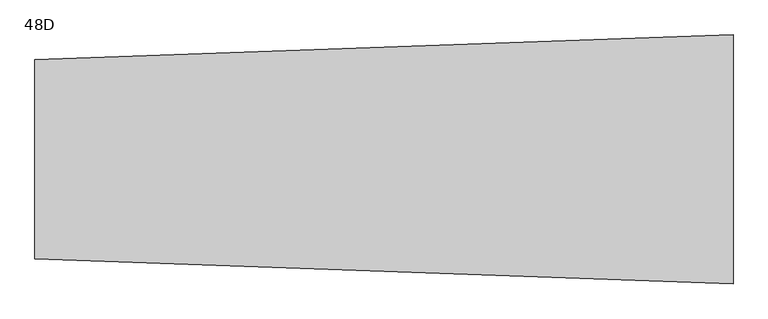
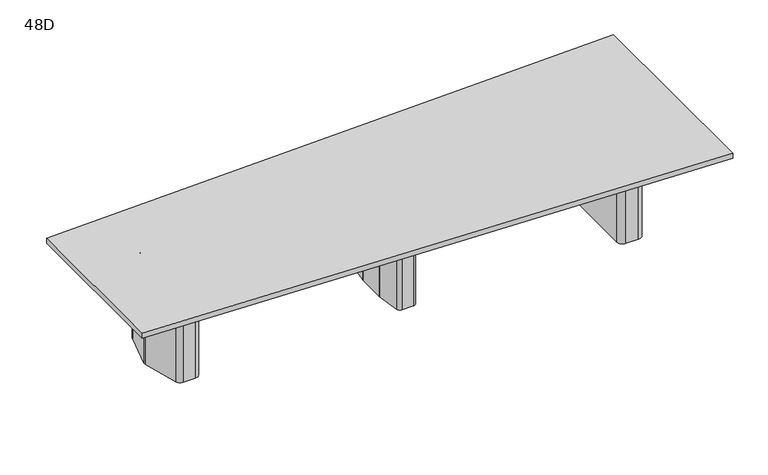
"""IFC4 building model written with IfcOpenShell, lengths in millimetres: furniture geometry, Coalesse_AM_Table_Conference_ETable2_Trapezoid_14ft_ThreeBase : 48D."""

from ifc_helpers import new_model, si_unit, point, frame, frame_2d, origin, origin_with_axes, place, context, project, spatial, polyline, circle_curve, trimmed, segment, composite_curve, outline, extrude, source, transform, mapped, element, save
from ifc_brep_helpers import plane_surface, cylinder_surface, revolved_surface, advanced_brep


def furniture_48d_ada207fc(model_context):
    return source(origin(), model_context, "Body", "SolidModel", [
        advanced_brep(
        [(35.71875, 206.375, 3.175), (10.31875, 231.775, 3.175), (-10.31875, 231.775, 3.175), (-35.71875, 206.375, 3.175), (-35.71875, -206.375, 3.175), (-10.31875, -231.775, 3.175), (10.31875, -231.775, 3.175), (35.71875, -206.375, 3.175), (-61.11875, 206.375, 0.0), (-10.31875, 257.175, 0.0), (10.31875, 257.175, 0.0), (61.11875, 206.375, 0.0), (61.11875, -206.375, 0.0), (10.31875, -257.175, 0.0), (-10.31875, -257.175, 0.0), (-61.11875, -206.375, 0.0), (-61.11875, -206.375, 3.175), (-61.11875, 206.375, 3.175), (-10.31875, -257.175, 3.175), (10.31875, -257.175, 3.175), (61.11875, -206.375, 3.175), (61.11875, 206.375, 3.175), (10.31875, 257.175, 3.175), (-10.31875, 257.175, 3.175), (-92.6215974, 106.2976848, 698.5), (-92.86875, 102.7629613, 698.5), (-92.86875, -102.7629613, 698.5), (-92.6215974, -106.2976848, 698.5), (-67.7988375, -282.9347235, 698.5), (-42.6459902, -304.8, 698.5), (42.6459902, -304.8, 698.5), (67.7988375, -282.9347235, 698.5), (92.6215974, -106.2976848, 698.5), (92.86875, -102.7629613, 698.5), (92.86875, 102.7629613, 698.5), (92.6215974, 106.2976848, 698.5), (67.7988375, 282.9347235, 698.5), (42.6459902, 304.8, 698.5), (-42.6459902, 304.8, 698.5), (-67.7988375, 282.9347235, 698.5), (10.31875, 231.775, 698.5), (35.71875, 206.375, 698.5), (35.71875, -206.375, 698.5), (10.31875, -231.775, 698.5), (-10.31875, -231.775, 698.5), (-35.71875, -206.375, 698.5), (-35.71875, 206.375, 698.5), (-10.31875, 231.775, 698.5), (-92.6215974, 106.2976848, 3.175), (-67.7988375, 282.9347235, 3.175), (-42.6459902, 304.8, 3.175), (42.6459902, 304.8, 3.175), (67.7988375, 282.9347235, 3.175), (92.6215974, 106.2976848, 3.175), (92.86875, 102.7629613, 3.175), (92.86875, -102.7629613, 3.175), (92.6215974, -106.2976848, 3.175), (67.7988375, -282.9347235, 3.175), (42.6459902, -304.8, 3.175), (-42.6459902, -304.8, 3.175), (-67.7988375, -282.9347235, 3.175), (-92.6215974, -106.2976848, 3.175), (-92.86875, -102.7629613, 3.175), (-92.86875, 102.7629613, 3.175)],
        [
            (0, 1, circle_curve(frame((10.31875, 206.375, 3.175), z_axis=(0.0, 0.0, 1.0), x_axis=(1.0, 0.0, 0.0)), 25.4)),
            (1, 2),
            (2, 3, circle_curve(frame((-10.31875, 206.375, 3.175), z_axis=(0.0, 0.0, 1.0), x_axis=(1.0, 0.0, 0.0)), 25.4)),
            (3, 4),
            (4, 5, circle_curve(frame((-10.31875, -206.375, 3.175), z_axis=(0.0, 0.0, 1.0), x_axis=(1.0, 0.0, 0.0)), 25.4)),
            (5, 6),
            (6, 7, circle_curve(frame((10.31875, -206.375, 3.175), z_axis=(0.0, 0.0, 1.0), x_axis=(1.0, 0.0, 0.0)), 25.4)),
            (7, 0),
            (8, 9, circle_curve(frame((-10.31875, 206.375, 0.0), z_axis=(0.0, 0.0, -1.0), x_axis=(1.0, 0.0, 0.0)), 50.8)),
            (9, 10),
            (10, 11, circle_curve(frame((10.31875, 206.375, 0.0), z_axis=(0.0, 0.0, -1.0), x_axis=(1.0, 0.0, 0.0)), 50.8)),
            (11, 12),
            (12, 13, circle_curve(frame((10.31875, -206.375, 0.0), z_axis=(0.0, 0.0, -1.0), x_axis=(1.0, 0.0, 0.0)), 50.8)),
            (13, 14),
            (14, 15, circle_curve(frame((-10.31875, -206.375, 0.0), z_axis=(0.0, 0.0, -1.0), x_axis=(1.0, 0.0, 0.0)), 50.8)),
            (15, 8),
            (15, 16),
            (16, 17),
            (17, 8),
            (14, 18),
            (18, 16, circle_curve(frame((-10.31875, -206.375, 3.175), z_axis=(0.0, 0.0, -1.0), x_axis=(1.0, 0.0, 0.0)), 50.8)),
            (13, 19),
            (19, 18),
            (12, 20),
            (20, 19, circle_curve(frame((10.31875, -206.375, 3.175), z_axis=(0.0, 0.0, -1.0), x_axis=(1.0, 0.0, 0.0)), 50.8)),
            (11, 21),
            (21, 20),
            (10, 22),
            (22, 21, circle_curve(frame((10.31875, 206.375, 3.175), z_axis=(0.0, 0.0, -1.0), x_axis=(1.0, 0.0, 0.0)), 50.8)),
            (9, 23),
            (23, 22),
            (17, 23, circle_curve(frame((-10.31875, 206.375, 3.175), z_axis=(0.0, 0.0, -1.0), x_axis=(1.0, 0.0, 0.0)), 50.8)),
            (24, 25, circle_curve(frame((-67.46875, 102.7629613, 698.5), z_axis=(0.0, 0.0, 1.0), x_axis=(1.0, 0.0, 0.0)), 25.4)),
            (25, 26),
            (26, 27, circle_curve(frame((-67.46875, -102.7629613, 698.5), z_axis=(0.0, 0.0, 1.0), x_axis=(1.0, 0.0, 0.0)), 25.4)),
            (27, 28),
            (28, 29, circle_curve(frame((-42.6459902, -279.4, 698.5), z_axis=(0.0, 0.0, 1.0), x_axis=(1.0, 0.0, 0.0)), 25.4)),
            (29, 30),
            (30, 31, circle_curve(frame((42.6459902, -279.4, 698.5), z_axis=(0.0, 0.0, 1.0), x_axis=(1.0, 0.0, 0.0)), 25.4)),
            (31, 32),
            (32, 33, circle_curve(frame((67.46875, -102.7629613, 698.5), z_axis=(0.0, 0.0, 1.0), x_axis=(1.0, 0.0, 0.0)), 25.4)),
            (33, 34),
            (34, 35, circle_curve(frame((67.46875, 102.7629613, 698.5), z_axis=(0.0, 0.0, 1.0), x_axis=(1.0, 0.0, 0.0)), 25.4)),
            (35, 36),
            (36, 37, circle_curve(frame((42.6459902, 279.4, 698.5), z_axis=(0.0, 0.0, 1.0), x_axis=(1.0, 0.0, 0.0)), 25.4)),
            (37, 38),
            (38, 39, circle_curve(frame((-42.6459902, 279.4, 698.5), z_axis=(0.0, 0.0, 1.0), x_axis=(1.0, 0.0, 0.0)), 25.4)),
            (39, 24),
            (40, 41, circle_curve(frame((10.31875, 206.375, 698.5), z_axis=(0.0, 0.0, -1.0), x_axis=(1.0, 0.0, 0.0)), 25.4)),
            (41, 42),
            (42, 43, circle_curve(frame((10.31875, -206.375, 698.5), z_axis=(0.0, 0.0, -1.0), x_axis=(1.0, 0.0, 0.0)), 25.4)),
            (43, 44),
            (44, 45, circle_curve(frame((-10.31875, -206.375, 698.5), z_axis=(0.0, 0.0, -1.0), x_axis=(1.0, 0.0, 0.0)), 25.4)),
            (45, 46),
            (46, 47, circle_curve(frame((-10.31875, 206.375, 698.5), z_axis=(0.0, 0.0, -1.0), x_axis=(1.0, 0.0, 0.0)), 25.4)),
            (47, 40),
            (48, 49),
            (49, 50, circle_curve(frame((-42.6459902, 279.4, 3.175), z_axis=(0.0, 0.0, -1.0), x_axis=(1.0, 0.0, 0.0)), 25.4)),
            (50, 51),
            (51, 52, circle_curve(frame((42.6459902, 279.4, 3.175), z_axis=(0.0, 0.0, -1.0), x_axis=(1.0, 0.0, 0.0)), 25.4)),
            (52, 53),
            (53, 54, circle_curve(frame((67.46875, 102.7629613, 3.175), z_axis=(0.0, 0.0, -1.0), x_axis=(1.0, 0.0, 0.0)), 25.4)),
            (54, 55),
            (55, 56, circle_curve(frame((67.46875, -102.7629613, 3.175), z_axis=(0.0, 0.0, -1.0), x_axis=(1.0, 0.0, 0.0)), 25.4)),
            (56, 57),
            (57, 58, circle_curve(frame((42.6459902, -279.4, 3.175), z_axis=(0.0, 0.0, -1.0), x_axis=(1.0, 0.0, 0.0)), 25.4)),
            (58, 59),
            (59, 60, circle_curve(frame((-42.6459902, -279.4, 3.175), z_axis=(0.0, 0.0, -1.0), x_axis=(1.0, 0.0, 0.0)), 25.4)),
            (60, 61),
            (61, 62, circle_curve(frame((-67.46875, -102.7629613, 3.175), z_axis=(0.0, 0.0, -1.0), x_axis=(1.0, 0.0, 0.0)), 25.4)),
            (62, 63),
            (63, 48, circle_curve(frame((-67.46875, 102.7629613, 3.175), z_axis=(0.0, 0.0, -1.0), x_axis=(1.0, 0.0, 0.0)), 25.4)),
            (24, 48),
            (63, 25),
            (62, 26),
            (61, 27),
            (60, 28),
            (59, 29),
            (58, 30),
            (57, 31),
            (56, 32),
            (55, 33),
            (54, 34),
            (53, 35),
            (52, 36),
            (51, 37),
            (50, 38),
            (49, 39),
            (40, 1),
            (0, 41),
            (7, 42),
            (6, 43),
            (5, 44),
            (4, 45),
            (3, 46),
            (2, 47),
        ],
        [
            plane_surface(frame((-61.11875, -206.375, 3.175), z_axis=(0.0, 0.0, 1.0), x_axis=(0.0, -1.0, 0.0))),
            plane_surface(frame((-61.11875, -206.375, 0.0), z_axis=(0.0, 0.0, -1.0), x_axis=(0.0, 1.0, 0.0))),
            plane_surface(frame((-61.11875, 206.375, 3.175), z_axis=(-1.0, 0.0, 0.0), x_axis=(0.0, 0.0, -1.0))),
            cylinder_surface(frame((-10.31875, -206.375, 0.0), z_axis=(0.0, 0.0, 1.0), x_axis=(1.0, 0.0, 0.0)), 50.8),
            plane_surface(frame((-10.31875, -257.175, 3.175), z_axis=(0.0, -1.0, 0.0), x_axis=(0.0, 0.0, -1.0))),
            cylinder_surface(frame((10.31875, -206.375, 0.0), z_axis=(0.0, 0.0, 1.0), x_axis=(1.0, 0.0, 0.0)), 50.8),
            plane_surface(frame((61.11875, -206.375, 3.175), z_axis=(1.0, 0.0, 0.0), x_axis=(0.0, 0.0, -1.0))),
            cylinder_surface(frame((10.31875, 206.375, 0.0), z_axis=(0.0, 0.0, 1.0), x_axis=(1.0, 0.0, 0.0)), 50.8),
            plane_surface(frame((10.31875, 257.175, 3.175), z_axis=(0.0, 1.0, 0.0), x_axis=(0.0, 0.0, -1.0))),
            cylinder_surface(frame((-10.31875, 206.375, 0.0), z_axis=(0.0, 0.0, 1.0), x_axis=(1.0, 0.0, 0.0)), 50.8),
            plane_surface(frame((-42.06875, 102.7629613, 698.5), z_axis=(0.0, 0.0, 1.0), x_axis=(0.0, 1.0, 0.0))),
            plane_surface(frame((-42.06875, 102.7629613, 3.175), z_axis=(0.0, 0.0, -1.0), x_axis=(0.0, -1.0, 0.0))),
            cylinder_surface(frame((-67.46875, 102.7629613, 3.175), z_axis=(0.0, 0.0, 1.0), x_axis=(1.0, 0.0, 0.0)), 25.4),
            plane_surface(frame((-92.86875, 102.7629613, 698.5), z_axis=(-1.0, 0.0, 0.0), x_axis=(0.0, 0.0, -1.0))),
            cylinder_surface(frame((-67.46875, -102.7629613, 3.175), z_axis=(0.0, 0.0, 1.0), x_axis=(1.0, 0.0, 0.0)), 25.4),
            plane_surface(frame((-92.6215974, -106.2976848, 698.5), z_axis=(-0.9902695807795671, -0.13916234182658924, 0.0), x_axis=(0.0, 0.0, -1.0))),
            cylinder_surface(frame((-42.6459902, -279.4, 3.175), z_axis=(0.0, 0.0, 1.0), x_axis=(1.0, 0.0, 0.0)), 25.4),
            plane_surface(frame((-42.6459902, -304.8, 698.5), z_axis=(0.0, -1.0, 0.0), x_axis=(0.0, 0.0, -1.0))),
            cylinder_surface(frame((42.6459902, -279.4, 3.175), z_axis=(0.0, 0.0, 1.0), x_axis=(1.0, 0.0, 0.0)), 25.4),
            plane_surface(frame((67.7988375, -282.9347235, 698.5), z_axis=(0.9902695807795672, -0.13916234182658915, 0.0), x_axis=(0.0, 0.0, -1.0))),
            cylinder_surface(frame((67.46875, -102.7629613, 3.175), z_axis=(0.0, 0.0, 1.0), x_axis=(1.0, 0.0, 0.0)), 25.4),
            plane_surface(frame((92.86875, -102.7629613, 698.5), z_axis=(1.0, 0.0, 0.0), x_axis=(0.0, 0.0, -1.0))),
            cylinder_surface(frame((67.46875, 102.7629613, 3.175), z_axis=(0.0, 0.0, 1.0), x_axis=(1.0, 0.0, 0.0)), 25.4),
            plane_surface(frame((92.6215974, 106.2976848, 698.5), z_axis=(0.9902695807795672, 0.1391623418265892, 0.0), x_axis=(0.0, 0.0, -1.0))),
            cylinder_surface(frame((42.6459902, 279.4, 3.175), z_axis=(0.0, 0.0, 1.0), x_axis=(1.0, 0.0, 0.0)), 25.4),
            plane_surface(frame((42.6459902, 304.8, 698.5), z_axis=(0.0, 1.0, 0.0), x_axis=(0.0, 0.0, -1.0))),
            cylinder_surface(frame((-42.6459902, 279.4, 3.175), z_axis=(0.0, 0.0, 1.0), x_axis=(1.0, 0.0, 0.0)), 25.4),
            plane_surface(frame((-67.7988375, 282.9347235, 698.5), z_axis=(-0.9902695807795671, 0.13916234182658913, 0.0), x_axis=(0.0, 0.0, -1.0))),
            revolved_surface(polyline([(35.71875, 206.375, 3.175), (35.71875, 206.375, 698.5)]), (10.31875, 206.375, 0.0), (0.0, 0.0, -1.0)),
            plane_surface(frame((35.71875, 206.375, 698.5), z_axis=(-1.0, 0.0, 0.0), x_axis=(0.0, 0.0, -1.0))),
            revolved_surface(polyline([(35.71875, -206.375, 3.175), (35.71875, -206.375, 698.5)]), (10.31875, -206.375, 0.0), (0.0, 0.0, -1.0)),
            plane_surface(frame((10.31875, -231.775, 698.5), z_axis=(0.0, 1.0, 0.0), x_axis=(0.0, 0.0, -1.0))),
            revolved_surface(polyline([(15.081249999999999, -206.375, 3.175), (15.081249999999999, -206.375, 698.5)]), (-10.31875, -206.375, 0.0), (0.0, 0.0, -1.0)),
            plane_surface(frame((-35.71875, -206.375, 698.5), z_axis=(1.0, 0.0, 0.0), x_axis=(0.0, 0.0, -1.0))),
            revolved_surface(polyline([(15.081249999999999, 206.375, 3.175), (15.081249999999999, 206.375, 698.5)]), (-10.31875, 206.375, 0.0), (0.0, 0.0, -1.0)),
            plane_surface(frame((-10.31875, 231.775, 698.5), z_axis=(0.0, -1.0, 0.0), x_axis=(0.0, 0.0, -1.0))),
        ],
        [
            (0, [[1, 2, 3, 4, 5, 6, 7, 8]]),
            (1, [[9, 10, 11, 12, 13, 14, 15, 16]]),
            (2, [[-16, 17, 18, 19]]),
            (3, [[-15, 20, 21, -17]]),
            (4, [[-14, 22, 23, -20]]),
            (5, [[-13, 24, 25, -22]]),
            (6, [[-12, 26, 27, -24]]),
            (7, [[-11, 28, 29, -26]]),
            (8, [[-10, 30, 31, -28]]),
            (9, [[-9, -19, 32, -30]]),
            (10, [[33, 34, 35, 36, 37, 38, 39, 40, 41, 42, 43, 44, 45, 46, 47, 48], [49, 50, 51, 52, 53, 54, 55, 56]]),
            (11, [[57, 58, 59, 60, 61, 62, 63, 64, 65, 66, 67, 68, 69, 70, 71, 72], [-18, -21, -23, -25, -27, -29, -31, -32]]),
            (12, [[-33, 73, -72, 74]]),
            (13, [[-34, -74, -71, 75]]),
            (14, [[-35, -75, -70, 76]]),
            (15, [[-36, -76, -69, 77]]),
            (16, [[-37, -77, -68, 78]]),
            (17, [[-38, -78, -67, 79]]),
            (18, [[-39, -79, -66, 80]]),
            (19, [[-40, -80, -65, 81]]),
            (20, [[-41, -81, -64, 82]]),
            (21, [[-42, -82, -63, 83]]),
            (22, [[-43, -83, -62, 84]]),
            (23, [[-44, -84, -61, 85]]),
            (24, [[-45, -85, -60, 86]]),
            (25, [[-46, -86, -59, 87]]),
            (26, [[-47, -87, -58, 88]]),
            (27, [[-48, -88, -57, -73]]),
            (28, [[-49, 89, -1, 90]]),
            (29, [[-50, -90, -8, 91]]),
            (30, [[-51, -91, -7, 92]]),
            (31, [[-52, -92, -6, 93]]),
            (32, [[-53, -93, -5, 94]]),
            (33, [[-54, -94, -4, 95]]),
            (34, [[-55, -95, -3, 96]]),
            (35, [[-56, -96, -2, -89]]),
        ],
    ),
        extrude(outline(composite_curve([segment(polyline([(1751.0125, 101.7236478), (1751.0125, -97.2761514)]), True, "CONTINUOUS"), segment(trimmed(circle_curve(frame_2d((1712.9125, -97.2761514)), 38.1), [point((1751.0125, -97.2761514))], [point((1749.2491129, -108.7330515))], False, "CARTESIAN"), True, "CONTINUOUS"), segment(polyline([(1749.2491129, -108.7330515), (1690.8245591, -294.0319001)]), True, "CONTINUOUS"), segment(trimmed(circle_curve(frame_2d((1654.4879462, -282.575)), 38.1), [point((1690.8245591, -294.0319001))], [point((1654.4879462, -320.675))], False, "CARTESIAN"), True, "CONTINUOUS"), segment(polyline([(1654.4879462, -320.675), (1587.5, -320.675)]), True, "CONTINUOUS"), segment(trimmed(circle_curve(frame_2d((1587.5, -282.575)), 38.1), [point((1587.5, -320.675))], [point((1549.4, -282.575))], False, "CARTESIAN"), True, "CONTINUOUS"), segment(polyline([(1549.4, -282.575), (1549.4, 282.575)]), True, "CONTINUOUS"), segment(trimmed(circle_curve(frame_2d((1587.5, 282.575)), 38.1), [point((1549.4, 282.575))], [point((1587.5, 320.675))], False, "CARTESIAN"), True, "CONTINUOUS"), segment(polyline([(1587.5, 320.675), (1658.2373998, 320.675)]), True, "CONTINUOUS"), segment(trimmed(circle_curve(frame_2d((1658.2373998, 282.575)), 38.1), [point((1658.2373998, 320.675))], [point((1694.7072049, 293.6005756))], False, "CARTESIAN"), True, "CONTINUOUS"), segment(polyline([(1694.7072049, 293.6005756), (1749.3823051, 112.7492234)]), True, "CONTINUOUS"), segment(trimmed(circle_curve(frame_2d((1712.9125, 101.7236478)), 38.1), [point((1749.3823051, 112.7492234))], [point((1751.0125, 101.7236478))], False, "CARTESIAN"), True, "CONTINUOUS")], self_intersect=False)), origin_with_axes(), (0.0, 0.0, 1.0), 3.175),
        extrude(outline(composite_curve([segment(polyline([(1571.625, 381.0), (1659.7721663, 381.0)]), True, "CONTINUOUS"), segment(trimmed(circle_curve(frame_2d((1659.7721663, 339.725)), 41.275), [point((1659.7721663, 381.0))], [point((1699.1368303, 352.1366418))], False, "CARTESIAN"), True, "CONTINUOUS"), segment(polyline([(1699.1368303, 352.1366418), (1806.2518053, 12.4116418)]), True, "CONTINUOUS"), segment(trimmed(circle_curve(frame_2d((1766.8871413, 0.0)), 41.275), [point((1806.2518053, 12.4116418))], [point((1806.2518053, -12.4116418))], False, "CARTESIAN"), True, "CONTINUOUS"), segment(polyline([(1806.2518053, -12.4116418), (1699.1368303, -352.1366418)]), True, "CONTINUOUS"), segment(trimmed(circle_curve(frame_2d((1659.7721663, -339.725)), 41.275), [point((1699.1368303, -352.1366418))], [point((1659.7721663, -381.0))], False, "CARTESIAN"), True, "CONTINUOUS"), segment(polyline([(1659.7721663, -381.0), (1565.275, -381.0)]), True, "CONTINUOUS"), segment(trimmed(circle_curve(frame_2d((1565.275, -339.725)), 41.275), [point((1565.275, -381.0))], [point((1524.0, -339.725))], False, "CARTESIAN"), True, "CONTINUOUS"), segment(polyline([(1524.0, -339.725), (1524.0, 333.375)]), True, "CONTINUOUS"), segment(trimmed(circle_curve(frame_2d((1571.625, 333.375)), 47.625), [point((1524.0, 333.375))], [point((1571.625, 381.0))], False, "CARTESIAN"), True, "CONTINUOUS")], self_intersect=False), holes=[composite_curve([segment(trimmed(circle_curve(frame_2d((1587.5, -282.575)), 25.4), [point((1562.1, -282.575))], [point((1587.5, -307.975))], True, "CARTESIAN"), True, "CONTINUOUS"), segment(polyline([(1587.5, -307.975), (1654.4879462, -307.975)]), True, "CONTINUOUS"), segment(trimmed(circle_curve(frame_2d((1654.4879462, -282.575)), 25.4), [point((1654.4879462, -307.975))], [point((1678.7123548, -290.2129334))], True, "CARTESIAN"), True, "CONTINUOUS"), segment(polyline([(1678.7123548, -290.2129334), (1737.1369086, -104.9140848)]), True, "CONTINUOUS"), segment(trimmed(circle_curve(frame_2d((1712.9125, -97.2761514)), 25.4), [point((1737.1369086, -104.9140848))], [point((1738.3125, -97.2761514))], True, "CARTESIAN"), True, "CONTINUOUS"), segment(polyline([(1738.3125, -97.2761514), (1738.3125, 101.7236478)]), True, "CONTINUOUS"), segment(trimmed(circle_curve(frame_2d((1712.9125, 101.7236478)), 25.4), [point((1738.3125, 101.7236478))], [point((1737.2257034, 109.0740316))], True, "CARTESIAN"), True, "CONTINUOUS"), segment(polyline([(1737.2257034, 109.0740316), (1682.5506032, 289.9253837)]), True, "CONTINUOUS"), segment(trimmed(circle_curve(frame_2d((1658.2373998, 282.575)), 25.4), [point((1682.5506032, 289.9253837))], [point((1658.2373998, 307.975))], True, "CARTESIAN"), True, "CONTINUOUS"), segment(polyline([(1658.2373998, 307.975), (1587.5, 307.975)]), True, "CONTINUOUS"), segment(trimmed(circle_curve(frame_2d((1587.5, 282.575)), 25.4), [point((1587.5, 307.975))], [point((1562.1, 282.575))], True, "CARTESIAN"), True, "CONTINUOUS"), segment(polyline([(1562.1, 282.575), (1562.1, -282.575)]), True, "CONTINUOUS")], self_intersect=False)]), frame((0.0, 0.0, 3.175), z_axis=(0.0, 0.0, 1.0), x_axis=(1.0, 0.0, 0.0)), (0.0, 0.0, 1.0), 695.325),
        advanced_brep(
        [(-1694.868298, 274.2093613, 698.5), (-1765.4941401, 10.6333708, 698.5), (-1765.4941401, -10.6333708, 698.5), (-1694.868298, -274.2093613, 698.5), (-1655.0016746, -304.8, 698.5), (-1566.06875, -304.8, 698.5), (-1524.79375, -263.525, 698.5), (-1524.79375, 263.525, 698.5), (-1566.06875, 304.8, 698.5), (-1655.0016746, 304.8, 698.5), (-1562.89375, -206.375, 698.5), (-1588.29375, -231.775, 698.5), (-1647.3045922, -231.775, 698.5), (-1671.839088, -212.9490792, 698.5), (-1710.53125, -68.54974, 698.5), (-1710.53125, 68.54974, 698.5), (-1671.839088, 212.9490792, 698.5), (-1647.3045922, 231.775, 698.5), (-1588.29375, 231.775, 698.5), (-1562.89375, 206.375, 698.5), (-1694.868298, 274.2093613, 3.175), (-1655.0016746, 304.8, 3.175), (-1566.06875, 304.8, 3.175), (-1524.79375, 263.525, 3.175), (-1524.79375, -263.525, 3.175), (-1566.06875, -304.8, 3.175), (-1655.0016746, -304.8, 3.175), (-1694.868298, -274.2093613, 3.175), (-1765.4941401, -10.6333708, 3.175), (-1765.4941401, 10.6333708, 3.175), (-1684.1063359, 216.2361187, 3.175), (-1723.23125, 70.2217466, 3.175), (-1723.23125, -70.2217466, 3.175), (-1684.1063359, -216.2361187, 3.175), (-1647.3045922, -244.475, 3.175), (-1588.29375, -244.475, 3.175), (-1550.19375, -206.375, 3.175), (-1550.19375, 206.375, 3.175), (-1588.29375, 244.475, 3.175), (-1647.3045922, 244.475, 3.175), (-1562.89375, -206.375, 3.175), (-1588.29375, -231.775, 3.175), (-1647.3045922, -231.775, 3.175), (-1671.839088, -212.9490792, 3.175), (-1710.53125, -68.54974, 3.175), (-1710.53125, 68.54974, 3.175), (-1671.839088, 212.9490792, 3.175), (-1647.3045922, 231.775, 3.175), (-1588.29375, 231.775, 3.175), (-1562.89375, 206.375, 3.175), (-1684.1063359, 216.2361187, 0.0), (-1647.3045922, 244.475, 0.0), (-1588.29375, 244.475, 0.0), (-1550.19375, 206.375, 0.0), (-1550.19375, -206.375, 0.0), (-1588.29375, -244.475, 0.0), (-1647.3045922, -244.475, 0.0), (-1684.1063359, -216.2361187, 0.0), (-1723.23125, -70.2217466, 0.0), (-1723.23125, 70.2217466, 0.0)],
        [
            (0, 1),
            (1, 2, circle_curve(frame((-1725.8103479, 0.0, 698.5), z_axis=(0.0, 0.0, 1.0), x_axis=(1.0, 0.0, 0.0)), 41.0837187)),
            (2, 3),
            (3, 4, circle_curve(frame((-1655.0016746, -263.5270004, 698.5), z_axis=(0.0, 0.0, 1.0), x_axis=(1.0, 0.0, 0.0)), 41.2729996)),
            (4, 5),
            (5, 6, circle_curve(frame((-1566.06875, -263.525, 698.5), z_axis=(0.0, 0.0, 1.0), x_axis=(1.0, 0.0, 0.0)), 41.275)),
            (6, 7),
            (7, 8, circle_curve(frame((-1566.06875, 263.525, 698.5), z_axis=(0.0, 0.0, 1.0), x_axis=(1.0, 0.0, 0.0)), 41.275)),
            (8, 9),
            (9, 0, circle_curve(frame((-1655.0016746, 263.5270004, 698.5), z_axis=(0.0, 0.0, 1.0), x_axis=(1.0, 0.0, 0.0)), 41.2729996)),
            (10, 11, circle_curve(frame((-1588.29375, -206.375, 698.5), z_axis=(0.0, 0.0, -1.0), x_axis=(1.0, 0.0, 0.0)), 25.4)),
            (11, 12),
            (12, 13, circle_curve(frame((-1647.3045922, -206.375, 698.5), z_axis=(0.0, 0.0, -1.0), x_axis=(1.0, 0.0, 0.0)), 25.4)),
            (13, 14),
            (14, 15),
            (15, 16),
            (16, 17, circle_curve(frame((-1647.3045922, 206.375, 698.5), z_axis=(0.0, 0.0, -1.0), x_axis=(1.0, 0.0, 0.0)), 25.4)),
            (17, 18),
            (18, 19, circle_curve(frame((-1588.29375, 206.375, 698.5), z_axis=(0.0, 0.0, -1.0), x_axis=(1.0, 0.0, 0.0)), 25.4)),
            (19, 10),
            (20, 21, circle_curve(frame((-1655.0016746, 263.5270004, 3.175), z_axis=(0.0, 0.0, -1.0), x_axis=(1.0, 0.0, 0.0)), 41.2729996)),
            (21, 22),
            (22, 23, circle_curve(frame((-1566.06875, 263.525, 3.175), z_axis=(0.0, 0.0, -1.0), x_axis=(1.0, 0.0, 0.0)), 41.275)),
            (23, 24),
            (24, 25, circle_curve(frame((-1566.06875, -263.525, 3.175), z_axis=(0.0, 0.0, -1.0), x_axis=(1.0, 0.0, 0.0)), 41.275)),
            (25, 26),
            (26, 27, circle_curve(frame((-1655.0016746, -263.5270004, 3.175), z_axis=(0.0, 0.0, -1.0), x_axis=(1.0, 0.0, 0.0)), 41.2729996)),
            (27, 28),
            (28, 29, circle_curve(frame((-1725.8103479, 0.0, 3.175), z_axis=(0.0, 0.0, -1.0), x_axis=(1.0, 0.0, 0.0)), 41.0837187)),
            (29, 20),
            (30, 31),
            (31, 32),
            (32, 33),
            (33, 34, circle_curve(frame((-1647.3045922, -206.375, 3.175), z_axis=(0.0, 0.0, 1.0), x_axis=(1.0, 0.0, 0.0)), 38.1)),
            (34, 35),
            (35, 36, circle_curve(frame((-1588.29375, -206.375, 3.175), z_axis=(0.0, 0.0, 1.0), x_axis=(1.0, 0.0, 0.0)), 38.1)),
            (36, 37),
            (37, 38, circle_curve(frame((-1588.29375, 206.375, 3.175), z_axis=(0.0, 0.0, 1.0), x_axis=(1.0, 0.0, 0.0)), 38.1)),
            (38, 39),
            (39, 30, circle_curve(frame((-1647.3045922, 206.375, 3.175), z_axis=(0.0, 0.0, 1.0), x_axis=(1.0, 0.0, 0.0)), 38.1)),
            (0, 20),
            (29, 1),
            (28, 2),
            (27, 3),
            (26, 4),
            (25, 5),
            (24, 6),
            (23, 7),
            (22, 8),
            (21, 9),
            (10, 40),
            (40, 41, circle_curve(frame((-1588.29375, -206.375, 3.175), z_axis=(0.0, 0.0, -1.0), x_axis=(1.0, 0.0, 0.0)), 25.4)),
            (41, 11),
            (41, 42),
            (42, 12),
            (42, 43, circle_curve(frame((-1647.3045922, -206.375, 3.175), z_axis=(0.0, 0.0, -1.0), x_axis=(1.0, 0.0, 0.0)), 25.4)),
            (43, 13),
            (43, 44),
            (44, 14),
            (44, 45),
            (45, 15),
            (45, 46),
            (46, 16),
            (46, 47, circle_curve(frame((-1647.3045922, 206.375, 3.175), z_axis=(0.0, 0.0, -1.0), x_axis=(1.0, 0.0, 0.0)), 25.4)),
            (47, 17),
            (47, 48),
            (48, 18),
            (48, 49, circle_curve(frame((-1588.29375, 206.375, 3.175), z_axis=(0.0, 0.0, -1.0), x_axis=(1.0, 0.0, 0.0)), 25.4)),
            (49, 19),
            (49, 40),
            (50, 51, circle_curve(frame((-1647.3045922, 206.375, 0.0), z_axis=(0.0, 0.0, -1.0), x_axis=(1.0, 0.0, 0.0)), 38.1)),
            (51, 52),
            (52, 53, circle_curve(frame((-1588.29375, 206.375, 0.0), z_axis=(0.0, 0.0, -1.0), x_axis=(1.0, 0.0, 0.0)), 38.1)),
            (53, 54),
            (54, 55, circle_curve(frame((-1588.29375, -206.375, 0.0), z_axis=(0.0, 0.0, -1.0), x_axis=(1.0, 0.0, 0.0)), 38.1)),
            (55, 56),
            (56, 57, circle_curve(frame((-1647.3045922, -206.375, 0.0), z_axis=(0.0, 0.0, -1.0), x_axis=(1.0, 0.0, 0.0)), 38.1)),
            (57, 58),
            (58, 59),
            (59, 50),
            (59, 31),
            (30, 50),
            (58, 32),
            (57, 33),
            (56, 34),
            (55, 35),
            (54, 36),
            (53, 37),
            (52, 38),
            (51, 39),
        ],
        [
            plane_surface(frame((-1765.4811775, 10.6817473, 698.5), z_axis=(0.0, 0.0, 1.0000000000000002), x_axis=(-0.25882201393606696, -0.9659250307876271, 0.0))),
            plane_surface(frame((-1765.4811775, 10.6817473, 3.175), z_axis=(0.0, 0.0, -1.0000000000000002), x_axis=(0.25882201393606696, 0.9659250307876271, 0.0))),
            plane_surface(frame((-1694.868298, 274.2093613, 698.5), z_axis=(-0.9659250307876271, 0.25882201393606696, 0.0), x_axis=(0.0, 0.0, -1.0))),
            cylinder_surface(frame((-1725.8103479, 0.0, 3.175), z_axis=(0.0, 0.0, 1.0), x_axis=(1.0, 0.0, 0.0)), 41.0837187),
            plane_surface(frame((-1765.4941401, -10.6333708, 698.5), z_axis=(-0.9659250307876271, -0.2588220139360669, 0.0), x_axis=(0.0, 0.0, -1.0))),
            cylinder_surface(frame((-1655.0016746, -263.5270004, 3.175), z_axis=(0.0, 0.0, 1.0), x_axis=(1.0, 0.0, 0.0)), 41.2729996),
            plane_surface(frame((-1655.0016746, -304.8, 698.5), z_axis=(0.0, -1.0, 0.0), x_axis=(0.0, 0.0, -1.0))),
            cylinder_surface(frame((-1566.06875, -263.525, 3.175), z_axis=(0.0, 0.0, 1.0), x_axis=(1.0, 0.0, 0.0)), 41.275),
            plane_surface(frame((-1524.79375, -263.525, 698.5), z_axis=(1.0, 0.0, 0.0), x_axis=(0.0, 0.0, -1.0))),
            cylinder_surface(frame((-1566.06875, 263.525, 3.175), z_axis=(0.0, 0.0, 1.0), x_axis=(1.0, 0.0, 0.0)), 41.275),
            plane_surface(frame((-1566.06875, 304.8, 698.5), z_axis=(0.0, 1.0, 0.0), x_axis=(0.0, 0.0, -1.0))),
            cylinder_surface(frame((-1655.0016746, 263.5270004, 3.175), z_axis=(0.0, 0.0, 1.0), x_axis=(1.0, 0.0, 0.0)), 41.2729996),
            revolved_surface(polyline([(-1562.89375, -206.375, 3.175), (-1562.89375, -206.375, 698.5)]), (-1588.29375, -206.375, 0.0), (0.0, 0.0, -1.0)),
            plane_surface(frame((-1588.29375, -231.775, 698.5), z_axis=(0.0, 1.0, 0.0), x_axis=(0.0, 0.0, -1.0))),
            revolved_surface(polyline([(-1621.9045921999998, -206.375, 3.175), (-1621.9045921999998, -206.375, 698.5)]), (-1647.3045922, -206.375, 0.0), (0.0, 0.0, -1.0)),
            plane_surface(frame((-1671.839088, -212.9490792, 698.5), z_axis=(0.9659250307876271, 0.2588220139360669, 0.0), x_axis=(0.0, 0.0, -1.0))),
            plane_surface(frame((-1710.53125, -68.54974, 698.5), z_axis=(1.0, 0.0, 0.0), x_axis=(0.0, 0.0, -1.0))),
            plane_surface(frame((-1710.53125, 68.54974, 698.5), z_axis=(0.9659250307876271, -0.25882201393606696, 0.0), x_axis=(0.0, 0.0, -1.0))),
            revolved_surface(polyline([(-1621.9045921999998, 206.375, 3.175), (-1621.9045921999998, 206.375, 698.5)]), (-1647.3045922, 206.375, 0.0), (0.0, 0.0, -1.0)),
            plane_surface(frame((-1647.3045922, 231.775, 698.5), z_axis=(0.0, -1.0, 0.0), x_axis=(0.0, 0.0, -1.0))),
            revolved_surface(polyline([(-1562.89375, 206.375, 3.175), (-1562.89375, 206.375, 698.5)]), (-1588.29375, 206.375, 0.0), (0.0, 0.0, -1.0)),
            plane_surface(frame((-1562.89375, 206.375, 698.5), z_axis=(-1.0, 0.0, 0.0), x_axis=(0.0, 0.0, -1.0))),
            plane_surface(frame((-1722.7984979, 71.8367796, 3.175), z_axis=(0.0, 0.0, 1.0), x_axis=(-0.25882201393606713, -0.965925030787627, 0.0))),
            plane_surface(frame((-1722.7984979, 71.8367796, 0.0), z_axis=(0.0, 0.0, -1.0), x_axis=(0.25882201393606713, 0.965925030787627, 0.0))),
            plane_surface(frame((-1684.1063359, 216.2361187, 3.175), z_axis=(-0.965925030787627, 0.25882201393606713, 0.0), x_axis=(0.0, 0.0, -1.0))),
            plane_surface(frame((-1723.23125, 70.2217466, 3.175), z_axis=(-1.0, 0.0, 0.0), x_axis=(0.0, 0.0, -1.0))),
            plane_surface(frame((-1723.23125, -70.2217466, 3.175), z_axis=(-0.9659250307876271, -0.2588220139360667, 0.0), x_axis=(0.0, 0.0, -1.0))),
            cylinder_surface(frame((-1647.3045922, -206.375, 0.0), z_axis=(0.0, 0.0, 1.0), x_axis=(1.0, 0.0, 0.0)), 38.1),
            plane_surface(frame((-1647.3045922, -244.475, 3.175), z_axis=(0.0, -1.0, 0.0), x_axis=(0.0, 0.0, -1.0))),
            cylinder_surface(frame((-1588.29375, -206.375, 0.0), z_axis=(0.0, 0.0, 1.0), x_axis=(1.0, 0.0, 0.0)), 38.1),
            plane_surface(frame((-1550.19375, -206.375, 3.175), z_axis=(1.0, 0.0, 0.0), x_axis=(0.0, 0.0, -1.0))),
            cylinder_surface(frame((-1588.29375, 206.375, 0.0), z_axis=(0.0, 0.0, 1.0), x_axis=(1.0, 0.0, 0.0)), 38.1),
            plane_surface(frame((-1588.29375, 244.475, 3.175), z_axis=(0.0, 1.0, 0.0), x_axis=(0.0, 0.0, -1.0))),
            cylinder_surface(frame((-1647.3045922, 206.375, 0.0), z_axis=(0.0, 0.0, 1.0), x_axis=(1.0, 0.0, 0.0)), 38.1),
        ],
        [
            (0, [[1, 2, 3, 4, 5, 6, 7, 8, 9, 10], [11, 12, 13, 14, 15, 16, 17, 18, 19, 20]]),
            (1, [[21, 22, 23, 24, 25, 26, 27, 28, 29, 30], [31, 32, 33, 34, 35, 36, 37, 38, 39, 40]]),
            (2, [[-1, 41, -30, 42]]),
            (3, [[-2, -42, -29, 43]]),
            (4, [[-3, -43, -28, 44]]),
            (5, [[-4, -44, -27, 45]]),
            (6, [[-5, -45, -26, 46]]),
            (7, [[-6, -46, -25, 47]]),
            (8, [[-7, -47, -24, 48]]),
            (9, [[-8, -48, -23, 49]]),
            (10, [[-9, -49, -22, 50]]),
            (11, [[-10, -50, -21, -41]]),
            (12, [[-11, 51, 52, 53]]),
            (13, [[-12, -53, 54, 55]]),
            (14, [[-13, -55, 56, 57]]),
            (15, [[-14, -57, 58, 59]]),
            (16, [[-15, -59, 60, 61]]),
            (17, [[-16, -61, 62, 63]]),
            (18, [[-17, -63, 64, 65]]),
            (19, [[-18, -65, 66, 67]]),
            (20, [[-19, -67, 68, 69]]),
            (21, [[-20, -69, 70, -51]]),
            (22, [[-52, -70, -68, -66, -64, -62, -60, -58, -56, -54]]),
            (23, [[71, 72, 73, 74, 75, 76, 77, 78, 79, 80]]),
            (24, [[-80, 81, -31, 82]]),
            (25, [[-79, 83, -32, -81]]),
            (26, [[-78, 84, -33, -83]]),
            (27, [[-77, 85, -34, -84]]),
            (28, [[-76, 86, -35, -85]]),
            (29, [[-75, 87, -36, -86]]),
            (30, [[-74, 88, -37, -87]]),
            (31, [[-73, 89, -38, -88]]),
            (32, [[-72, 90, -39, -89]]),
            (33, [[-71, -82, -40, -90]]),
        ],
    ),
        extrude(outline(polyline([(96.8375, 698.5), (103.1875, 698.5), (103.1875, 476.25), (-103.1875, 476.25), (-103.1875, 698.5), (-96.8375, 698.5), (-96.8375, 482.6), (96.8375, 482.6), (96.8375, 698.5)])), frame((-1524.79375, 0.0, 0.0), z_axis=(1.0, 0.0, 0.0), x_axis=(0.0, 1.0, 0.0)), (0.0, 0.0, 1.0), 3048.79375),
        extrude(outline(polyline([(2133.6, 762.0), (2133.6, -762.0), (-2133.6, -609.6), (-2133.6, 609.6), (2133.6, 762.0)])), frame((0.0, 0.0, 698.5), z_axis=(0.0, 0.0, 1.0), x_axis=(1.0, 0.0, 0.0)), (0.0, 0.0, 1.0), 38.1),
    ])


if __name__ == "__main__":
    model = new_model("IFC4")
    model_context = context("Model", 3, world=origin())
    ifc_project = project(units=[si_unit("LENGTHUNIT", "METRE", prefix="MILLI")], contexts=[model_context])
    site = spatial("IfcSite", under=ifc_project)
    building = spatial("IfcBuilding", under=site)
    placement = place(None, origin())
    furniture_48d_shape = furniture_48d_ada207fc(model_context)
    element("IfcFurniture", 1, ObjectType="Coalesse_AM_Table_Conference_ETable2_Trapezoid_14ft_ThreeBase : 48D", at=placement, inside=building, context=model_context, shape_type="MappedRepresentation", body=[
        mapped(furniture_48d_shape, transform((0.0, 0.0, 0.0), x_axis=(1.0, 0.0, 0.0), y_axis=(0.0, 1.0, 0.0), z_axis=(0.0, 0.0, 1.0))),
    ])
    save(model, "model.ifc")
